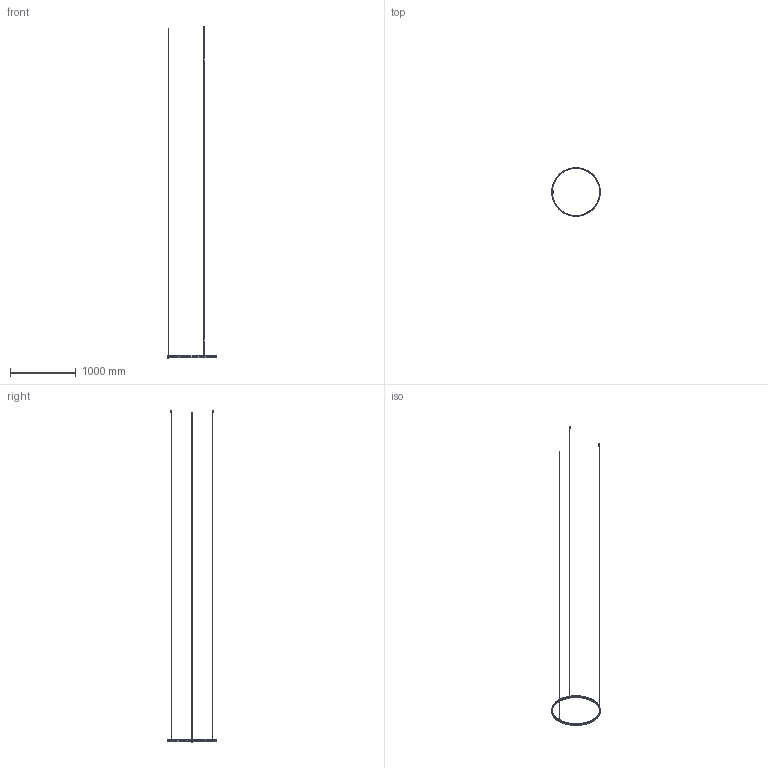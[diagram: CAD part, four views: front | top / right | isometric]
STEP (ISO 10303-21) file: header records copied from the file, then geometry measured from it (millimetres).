
FILE_DESCRIPTION(/* description */ (''),/* implementation_level */ '2;1');
FILE_NAME(/* name */ 'Zero Round M153__.075',/* time_stamp */ '2025-05-29T10:44:26+02:00',/* author */ (''),/* organization */ (''),/* preprocessor_version */ 'ST-DEVELOPER v16.5',/* originating_system */ '',/* authorisation */ '');
FILE_SCHEMA (('AUTOMOTIVE_DESIGN'));
Length unit declared in the file: millimetre
Products named in the file (10): Document; 4501.0009000.00 (cavo schermato FR5FH2R-FX 1xAWG20 trasparente)_4501.
0009500.00; 5402.0001000.00 (fune ACC 19 fili D 1,2mm con cilindro terminale 3x3m
m)_5402.0001500.00; 5200.0002000.00 (dispositivo regolazione fune OTTONE nichelato con in
nesto maschio M10 L 14mm)_5200.0002000.00; 3300.0298000.00 (manicotto per sospensione singola ALL D 20mm H 32mm 
con foro M10x1)_3302.0298000.00; 3300.0098000.00 (profilo curvo Zero Round sospensione ALL 7,7x30mm D 
est. 738mm)_3306.0098360.00; 3100.0026000.00 (schermo estruso Giplast 09PE79 PC 19x3,8mm per curva
 D int. 720mm)_3101.0026360.98; 3200.0200002.00 (copertura giunzione con foro M8 ACC 60,2x18,7mm H 23
mm sp 1)_3209.0200002.00; 5205.0004007.00 (nipplo D 10mm sp 2 gambo H 7mm M8x1 PC trasparente S
teab 5475-3-07-011)_5205.0004007.00; 5401.0016000.00 (molla in nastro sagomata ACC INOX 5x31x5mm sp 0,4)_5
401.0016000.00
Assembly tree (12 placements, depth 2):
  Document
    4501.0009000.00 (cavo schermato FR5FH2R-FX 1xAWG20 trasparente)_4501.
0009500.00
    5402.0001000.00 (fune ACC 19 fili D 1,2mm con cilindro terminale 3x3m
m)_5402.0001500.00  x2
    5200.0002000.00 (dispositivo regolazione fune OTTONE nichelato con in
nesto maschio M10 L 14mm)_5200.0002000.00  x2
    3300.0298000.00 (manicotto per sospensione singola ALL D 20mm H 32mm 
con foro M10x1)_3302.0298000.00  x2
    3300.0098000.00 (profilo curvo Zero Round sospensione ALL 7,7x30mm D 
est. 738mm)_3306.0098360.00
    3100.0026000.00 (schermo estruso Giplast 09PE79 PC 19x3,8mm per curva
 D int. 720mm)_3101.0026360.98
    3200.0200002.00 (copertura giunzione con foro M8 ACC 60,2x18,7mm H 23
mm sp 1)_3209.0200002.00
    5205.0004007.00 (nipplo D 10mm sp 2 gambo H 7mm M8x1 PC trasparente S
teab 5475-3-07-011)_5205.0004007.00
    5401.0016000.00 (molla in nastro sagomata ACC INOX 5x31x5mm sp 0,4)_5
401.0016000.00
Bounding box: 738.4 x 738 x 5055.45 mm (x, y, z)
Volume: 432718.6 mm3; surface area: 485365.5 mm2
Topology: 17 solids, 17 shells, 521 faces, 1261 edges, 777 vertices
Faces by surface type: bspline 394, plane 127
Entity records: 24633 total; most frequent: CARTESIAN_POINT 18457, ORIENTED_EDGE 2058, EDGE_CURVE 1029, VERTEX_POINT 629, B_SPLINE_CURVE_WITH_KNOTS 469, EDGE_LOOP 444, ADVANCED_FACE 424, FACE_OUTER_BOUND 424
